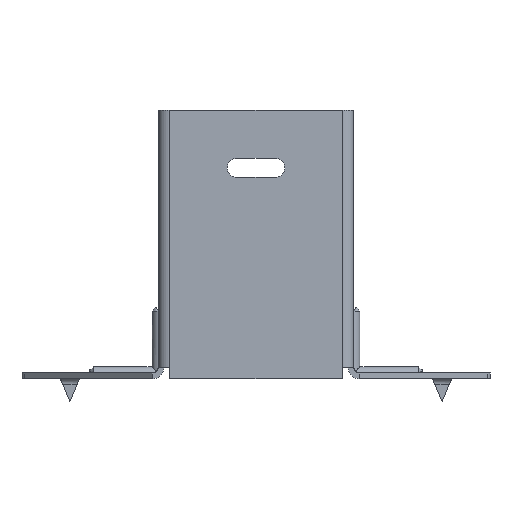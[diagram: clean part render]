
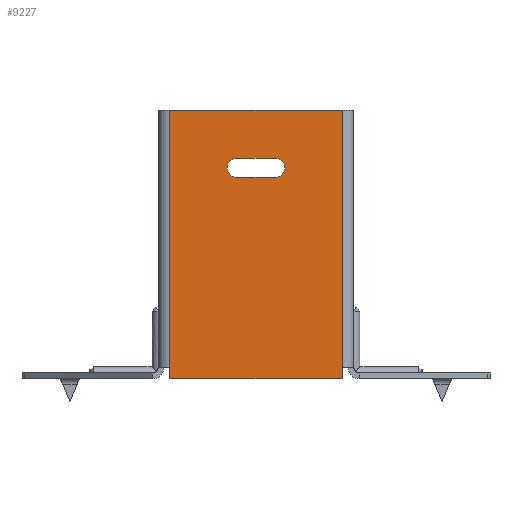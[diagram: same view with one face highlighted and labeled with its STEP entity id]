
A CAD part, front view. The second image highlights one B-rep face of the part: STEP entity #9227.
In plain terms, the highlighted planar face has unit normal (0, -1, 0).
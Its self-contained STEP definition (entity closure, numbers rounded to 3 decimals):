
#327 = DIRECTION ( 'NONE',  ( 0., 1., 0. ) ) ;
#431 = CARTESIAN_POINT ( 'NONE',  ( -22.5, 0., -70. ) ) ;
#575 = EDGE_CURVE ( 'NONE', #7083, #3602, #5456, .T. ) ;
#609 = EDGE_CURVE ( 'NONE', #7083, #7512, #12381, .T. ) ;
#630 = DIRECTION ( 'NONE',  ( 0., 0., 1. ) ) ;
#667 = CARTESIAN_POINT ( 'NONE',  ( -5., 0., -12.5 ) ) ;
#1755 = CIRCLE ( 'NONE', #9568, 2.5 ) ;
#1789 = ORIENTED_EDGE ( 'NONE', *, *, #609, .T. ) ;
#1891 = EDGE_LOOP ( 'NONE', ( #1789, #6557, #13902, #5584, #11390, #12737 ) ) ;
#1996 = ORIENTED_EDGE ( 'NONE', *, *, #13225, .T. ) ;
#2615 = VECTOR ( 'NONE', #4961, 1000. ) ;
#2695 = FACE_OUTER_BOUND ( 'NONE', #1891, .T. ) ;
#2718 = ORIENTED_EDGE ( 'NONE', *, *, #9003, .T. ) ;
#2866 = CARTESIAN_POINT ( 'NONE',  ( -5., 0., -12.5 ) ) ;
#3602 = VERTEX_POINT ( 'NONE', #13960 ) ;
#3960 = CARTESIAN_POINT ( 'NONE',  ( -22.5, 0., -67. ) ) ;
#4000 = AXIS2_PLACEMENT_3D ( 'NONE', #12505, #327, #10114 ) ;
#4466 = DIRECTION ( 'NONE',  ( 0., 1., 0. ) ) ;
#4478 = DIRECTION ( 'NONE',  ( 1., 0., 0. ) ) ;
#4688 = CARTESIAN_POINT ( 'NONE',  ( -22.5, 0., 0. ) ) ;
#4723 = CARTESIAN_POINT ( 'NONE',  ( -22.5, 0., 0. ) ) ;
#4959 = EDGE_CURVE ( 'NONE', #5457, #10813, #9950, .T. ) ;
#4961 = DIRECTION ( 'NONE',  ( -1., 0., 0. ) ) ;
#5456 = LINE ( 'NONE', #9545, #14877 ) ;
#5457 = VERTEX_POINT ( 'NONE', #10002 ) ;
#5584 = ORIENTED_EDGE ( 'NONE', *, *, #13904, .T. ) ;
#5644 = CARTESIAN_POINT ( 'NONE',  ( 5., 0., -15. ) ) ;
#5876 = LINE ( 'NONE', #14521, #15853 ) ;
#5919 = DIRECTION ( 'NONE',  ( 0., 0., -1. ) ) ;
#6226 = CIRCLE ( 'NONE', #8276, 2.5 ) ;
#6445 = CARTESIAN_POINT ( 'NONE',  ( 22.5, 0., -67. ) ) ;
#6557 = ORIENTED_EDGE ( 'NONE', *, *, #12639, .T. ) ;
#6615 = CARTESIAN_POINT ( 'NONE',  ( -5., 0., -17.5 ) ) ;
#6633 = CARTESIAN_POINT ( 'NONE',  ( 5., 0., -12.5 ) ) ;
#6796 = VERTEX_POINT ( 'NONE', #8245 ) ;
#6811 = VECTOR ( 'NONE', #10949, 1000. ) ;
#7011 = EDGE_CURVE ( 'NONE', #7951, #3602, #10291, .T. ) ;
#7060 = DIRECTION ( 'NONE',  ( 0., 0., -1. ) ) ;
#7083 = VERTEX_POINT ( 'NONE', #4723 ) ;
#7512 = VERTEX_POINT ( 'NONE', #3960 ) ;
#7636 = PLANE ( 'NONE',  #4000 ) ;
#7951 = VERTEX_POINT ( 'NONE', #6445 ) ;
#8183 = CARTESIAN_POINT ( 'NONE',  ( -5., 0., -15. ) ) ;
#8245 = CARTESIAN_POINT ( 'NONE',  ( 22.5, 0., -70. ) ) ;
#8276 = AXIS2_PLACEMENT_3D ( 'NONE', #5644, #4466, #14391 ) ;
#8608 = DIRECTION ( 'NONE',  ( 0., 0., 1. ) ) ;
#8611 = LINE ( 'NONE', #667, #15352 ) ;
#8941 = VERTEX_POINT ( 'NONE', #2866 ) ;
#9003 = EDGE_CURVE ( 'NONE', #10813, #8941, #1755, .T. ) ;
#9056 = CARTESIAN_POINT ( 'NONE',  ( 22.5, 0., -70. ) ) ;
#9227 = ADVANCED_FACE ( 'NONE', ( #15775, #2695 ), #7636, .F. ) ;
#9259 = DIRECTION ( 'NONE',  ( 1., 0., 0. ) ) ;
#9545 = CARTESIAN_POINT ( 'NONE',  ( -24., 0., 0. ) ) ;
#9568 = AXIS2_PLACEMENT_3D ( 'NONE', #8183, #10559, #12971 ) ;
#9690 = VERTEX_POINT ( 'NONE', #431 ) ;
#9866 = LINE ( 'NONE', #9056, #11011 ) ;
#9891 = VECTOR ( 'NONE', #5919, 1000. ) ;
#9950 = LINE ( 'NONE', #12337, #2615 ) ;
#10002 = CARTESIAN_POINT ( 'NONE',  ( 5., 0., -17.5 ) ) ;
#10114 = DIRECTION ( 'NONE',  ( 0., 0., 1. ) ) ;
#10291 = LINE ( 'NONE', #11194, #13917 ) ;
#10559 = DIRECTION ( 'NONE',  ( 0., 1., 0. ) ) ;
#10813 = VERTEX_POINT ( 'NONE', #6615 ) ;
#10942 = EDGE_CURVE ( 'NONE', #8941, #13869, #8611, .T. ) ;
#10949 = DIRECTION ( 'NONE',  ( -1., 0., 0. ) ) ;
#11011 = VECTOR ( 'NONE', #630, 1000. ) ;
#11194 = CARTESIAN_POINT ( 'NONE',  ( 22.5, 0., -70. ) ) ;
#11390 = ORIENTED_EDGE ( 'NONE', *, *, #7011, .T. ) ;
#12043 = CARTESIAN_POINT ( 'NONE',  ( -24., 0., -70. ) ) ;
#12337 = CARTESIAN_POINT ( 'NONE',  ( -5., 0., -17.5 ) ) ;
#12381 = LINE ( 'NONE', #4688, #9891 ) ;
#12505 = CARTESIAN_POINT ( 'NONE',  ( 0., 0., 0. ) ) ;
#12569 = LINE ( 'NONE', #12043, #6811 ) ;
#12639 = EDGE_CURVE ( 'NONE', #7512, #9690, #5876, .T. ) ;
#12737 = ORIENTED_EDGE ( 'NONE', *, *, #575, .F. ) ;
#12971 = DIRECTION ( 'NONE',  ( 0., 0., 1. ) ) ;
#13225 = EDGE_CURVE ( 'NONE', #13869, #5457, #6226, .T. ) ;
#13367 = EDGE_CURVE ( 'NONE', #6796, #9690, #12569, .T. ) ;
#13869 = VERTEX_POINT ( 'NONE', #6633 ) ;
#13902 = ORIENTED_EDGE ( 'NONE', *, *, #13367, .F. ) ;
#13904 = EDGE_CURVE ( 'NONE', #6796, #7951, #9866, .T. ) ;
#13917 = VECTOR ( 'NONE', #8608, 1000. ) ;
#13960 = CARTESIAN_POINT ( 'NONE',  ( 22.5, 0., 0. ) ) ;
#14391 = DIRECTION ( 'NONE',  ( 0., 0., 1. ) ) ;
#14521 = CARTESIAN_POINT ( 'NONE',  ( -22.5, 0., 0. ) ) ;
#14877 = VECTOR ( 'NONE', #4478, 1000. ) ;
#14979 = ORIENTED_EDGE ( 'NONE', *, *, #4959, .T. ) ;
#15006 = EDGE_LOOP ( 'NONE', ( #14979, #2718, #15586, #1996 ) ) ;
#15352 = VECTOR ( 'NONE', #9259, 1000. ) ;
#15586 = ORIENTED_EDGE ( 'NONE', *, *, #10942, .T. ) ;
#15775 = FACE_BOUND ( 'NONE', #15006, .T. ) ;
#15853 = VECTOR ( 'NONE', #7060, 1000. ) ;
